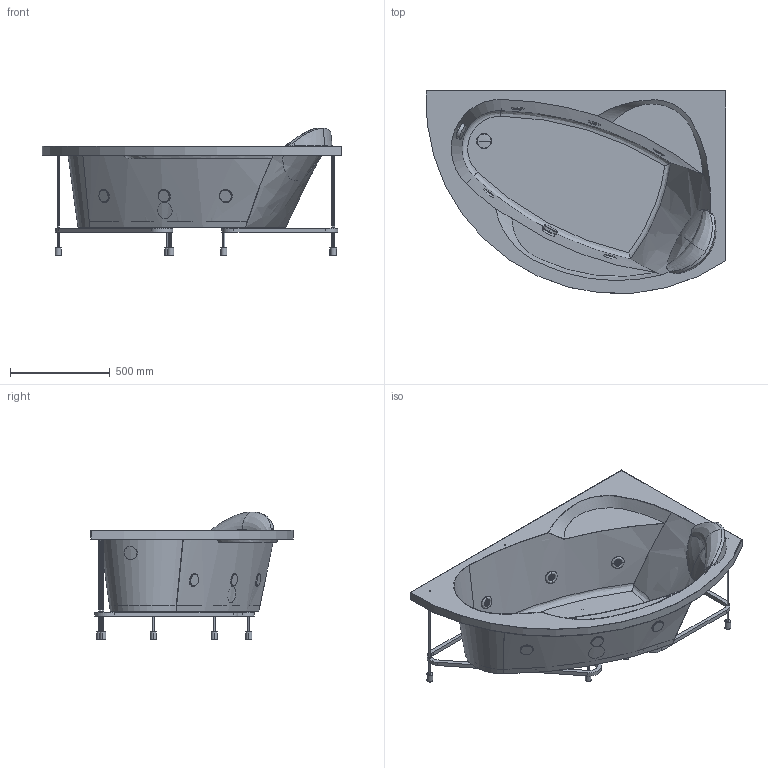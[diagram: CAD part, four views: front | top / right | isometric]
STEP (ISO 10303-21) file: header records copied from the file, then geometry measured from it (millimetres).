
FILE_DESCRIPTION(('STEP AP203'),'2;1');
FILE_NAME('VOG 5 15085 O D.stp','2015-07-24T16:35:39',(''),(''),'2014.1.117','THINKDESIGN','');
FILE_SCHEMA(('CONFIG_CONTROL_DESIGN'));
Length unit declared in the file: millimetre
Bounding box: 1500 x 1011.76 x 640.5 mm (x, y, z)
Volume: 13400808.8 mm3; surface area: 5710419 mm2
Topology: 13 solids, 13 shells, 344 faces, 741 edges, 437 vertices
Faces by surface type: bspline 152, plane 96, cylinder 96
Entity records: 19329 total; most frequent: CARTESIAN_POINT 12384, ORIENTED_EDGE 1414, DIRECTION 1392, EDGE_CURVE 707, AXIS2_PLACEMENT_3D 590, VERTEX_POINT 437, CIRCLE 398, EDGE_LOOP 396
